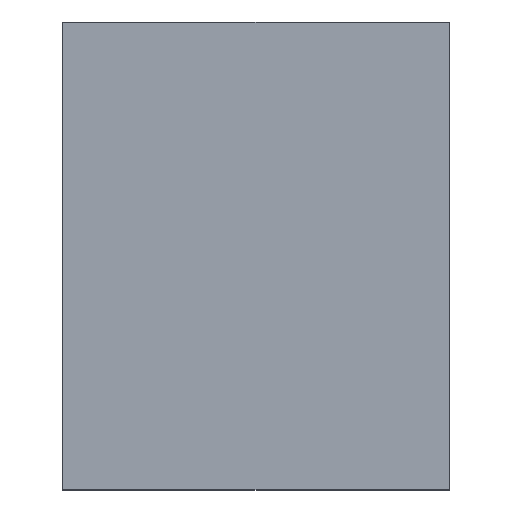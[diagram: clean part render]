
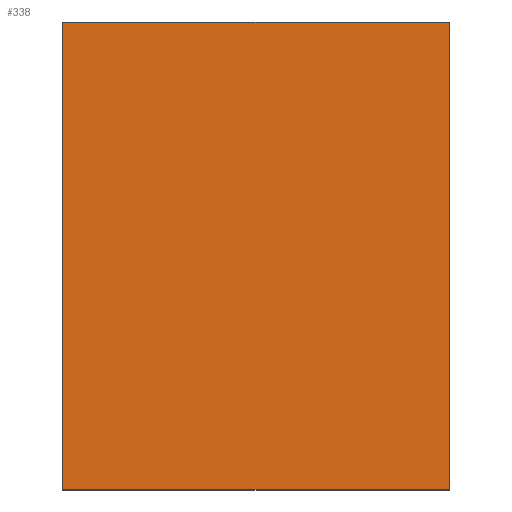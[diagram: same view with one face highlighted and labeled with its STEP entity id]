
A CAD part, top view. The second image highlights one B-rep face of the part: STEP entity #338.
In plain terms, the highlighted planar face has unit normal (0, 0, 1).
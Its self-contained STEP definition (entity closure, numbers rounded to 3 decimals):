
#24 = VERTEX_POINT('',#25);
#25 = CARTESIAN_POINT('',(-26.5,45.5,19.9));
#32 = PLANE('',#33);
#33 = AXIS2_PLACEMENT_3D('',#34,#35,#36);
#34 = CARTESIAN_POINT('',(-26.5,45.5,12.9));
#35 = DIRECTION('',(1.,0.,0.));
#36 = DIRECTION('',(0.,0.,1.));
#44 = PLANE('',#45);
#45 = AXIS2_PLACEMENT_3D('',#46,#47,#48);
#46 = CARTESIAN_POINT('',(-26.5,45.5,12.9));
#47 = DIRECTION('',(0.,1.,0.));
#48 = DIRECTION('',(0.,0.,1.));
#85 = VERTEX_POINT('',#86);
#86 = CARTESIAN_POINT('',(-26.5,68.5,19.9));
#100 = PLANE('',#101);
#101 = AXIS2_PLACEMENT_3D('',#102,#103,#104);
#102 = CARTESIAN_POINT('',(-26.5,68.5,12.9));
#103 = DIRECTION('',(0.,1.,0.));
#104 = DIRECTION('',(0.,0.,1.));
#112 = EDGE_CURVE('',#24,#85,#113,.T.);
#113 = SURFACE_CURVE('',#114,(#118,#125),.PCURVE_S1.);
#114 = LINE('',#115,#116);
#115 = CARTESIAN_POINT('',(-26.5,45.5,19.9));
#116 = VECTOR('',#117,1.);
#117 = DIRECTION('',(0.,1.,0.));
#118 = PCURVE('',#32,#119);
#119 = DEFINITIONAL_REPRESENTATION('',(#120),#124);
#120 = LINE('',#121,#122);
#121 = CARTESIAN_POINT('',(7.,0.));
#122 = VECTOR('',#123,1.);
#123 = DIRECTION('',(0.,-1.));
#124 = ( GEOMETRIC_REPRESENTATION_CONTEXT(2) 
PARAMETRIC_REPRESENTATION_CONTEXT() REPRESENTATION_CONTEXT('2D SPACE',''
  ) );
#125 = PCURVE('',#126,#131);
#126 = PLANE('',#127);
#127 = AXIS2_PLACEMENT_3D('',#128,#129,#130);
#128 = CARTESIAN_POINT('',(-26.5,45.5,19.9));
#129 = DIRECTION('',(0.,0.,1.));
#130 = DIRECTION('',(1.,0.,0.));
#131 = DEFINITIONAL_REPRESENTATION('',(#132),#136);
#132 = LINE('',#133,#134);
#133 = CARTESIAN_POINT('',(0.,0.));
#134 = VECTOR('',#135,1.);
#135 = DIRECTION('',(0.,1.));
#136 = ( GEOMETRIC_REPRESENTATION_CONTEXT(2) 
PARAMETRIC_REPRESENTATION_CONTEXT() REPRESENTATION_CONTEXT('2D SPACE',''
  ) );
#144 = VERTEX_POINT('',#145);
#145 = CARTESIAN_POINT('',(-7.5,45.5,19.9));
#152 = PLANE('',#153);
#153 = AXIS2_PLACEMENT_3D('',#154,#155,#156);
#154 = CARTESIAN_POINT('',(-7.5,45.5,12.9));
#155 = DIRECTION('',(1.,0.,0.));
#156 = DIRECTION('',(0.,0.,1.));
#195 = VERTEX_POINT('',#196);
#196 = CARTESIAN_POINT('',(-7.5,68.5,19.9));
#217 = EDGE_CURVE('',#144,#195,#218,.T.);
#218 = SURFACE_CURVE('',#219,(#223,#230),.PCURVE_S1.);
#219 = LINE('',#220,#221);
#220 = CARTESIAN_POINT('',(-7.5,45.5,19.9));
#221 = VECTOR('',#222,1.);
#222 = DIRECTION('',(0.,1.,0.));
#223 = PCURVE('',#152,#224);
#224 = DEFINITIONAL_REPRESENTATION('',(#225),#229);
#225 = LINE('',#226,#227);
#226 = CARTESIAN_POINT('',(7.,0.));
#227 = VECTOR('',#228,1.);
#228 = DIRECTION('',(0.,-1.));
#229 = ( GEOMETRIC_REPRESENTATION_CONTEXT(2) 
PARAMETRIC_REPRESENTATION_CONTEXT() REPRESENTATION_CONTEXT('2D SPACE',''
  ) );
#230 = PCURVE('',#126,#231);
#231 = DEFINITIONAL_REPRESENTATION('',(#232),#236);
#232 = LINE('',#233,#234);
#233 = CARTESIAN_POINT('',(19.,0.));
#234 = VECTOR('',#235,1.);
#235 = DIRECTION('',(0.,1.));
#236 = ( GEOMETRIC_REPRESENTATION_CONTEXT(2) 
PARAMETRIC_REPRESENTATION_CONTEXT() REPRESENTATION_CONTEXT('2D SPACE',''
  ) );
#263 = EDGE_CURVE('',#24,#144,#264,.T.);
#264 = SURFACE_CURVE('',#265,(#269,#276),.PCURVE_S1.);
#265 = LINE('',#266,#267);
#266 = CARTESIAN_POINT('',(-26.5,45.5,19.9));
#267 = VECTOR('',#268,1.);
#268 = DIRECTION('',(1.,0.,0.));
#269 = PCURVE('',#44,#270);
#270 = DEFINITIONAL_REPRESENTATION('',(#271),#275);
#271 = LINE('',#272,#273);
#272 = CARTESIAN_POINT('',(7.,0.));
#273 = VECTOR('',#274,1.);
#274 = DIRECTION('',(0.,1.));
#275 = ( GEOMETRIC_REPRESENTATION_CONTEXT(2) 
PARAMETRIC_REPRESENTATION_CONTEXT() REPRESENTATION_CONTEXT('2D SPACE',''
  ) );
#276 = PCURVE('',#126,#277);
#277 = DEFINITIONAL_REPRESENTATION('',(#278),#282);
#278 = LINE('',#279,#280);
#279 = CARTESIAN_POINT('',(0.,0.));
#280 = VECTOR('',#281,1.);
#281 = DIRECTION('',(1.,0.));
#282 = ( GEOMETRIC_REPRESENTATION_CONTEXT(2) 
PARAMETRIC_REPRESENTATION_CONTEXT() REPRESENTATION_CONTEXT('2D SPACE',''
  ) );
#310 = EDGE_CURVE('',#85,#195,#311,.T.);
#311 = SURFACE_CURVE('',#312,(#316,#323),.PCURVE_S1.);
#312 = LINE('',#313,#314);
#313 = CARTESIAN_POINT('',(-26.5,68.5,19.9));
#314 = VECTOR('',#315,1.);
#315 = DIRECTION('',(1.,0.,0.));
#316 = PCURVE('',#100,#317);
#317 = DEFINITIONAL_REPRESENTATION('',(#318),#322);
#318 = LINE('',#319,#320);
#319 = CARTESIAN_POINT('',(7.,0.));
#320 = VECTOR('',#321,1.);
#321 = DIRECTION('',(0.,1.));
#322 = ( GEOMETRIC_REPRESENTATION_CONTEXT(2) 
PARAMETRIC_REPRESENTATION_CONTEXT() REPRESENTATION_CONTEXT('2D SPACE',''
  ) );
#323 = PCURVE('',#126,#324);
#324 = DEFINITIONAL_REPRESENTATION('',(#325),#329);
#325 = LINE('',#326,#327);
#326 = CARTESIAN_POINT('',(0.,23.));
#327 = VECTOR('',#328,1.);
#328 = DIRECTION('',(1.,0.));
#329 = ( GEOMETRIC_REPRESENTATION_CONTEXT(2) 
PARAMETRIC_REPRESENTATION_CONTEXT() REPRESENTATION_CONTEXT('2D SPACE',''
  ) );
#338 = ADVANCED_FACE('',(#339),#126,.T.);
#339 = FACE_BOUND('',#340,.T.);
#340 = EDGE_LOOP('',(#341,#342,#343,#344));
#341 = ORIENTED_EDGE('',*,*,#112,.F.);
#342 = ORIENTED_EDGE('',*,*,#263,.T.);
#343 = ORIENTED_EDGE('',*,*,#217,.T.);
#344 = ORIENTED_EDGE('',*,*,#310,.F.);
